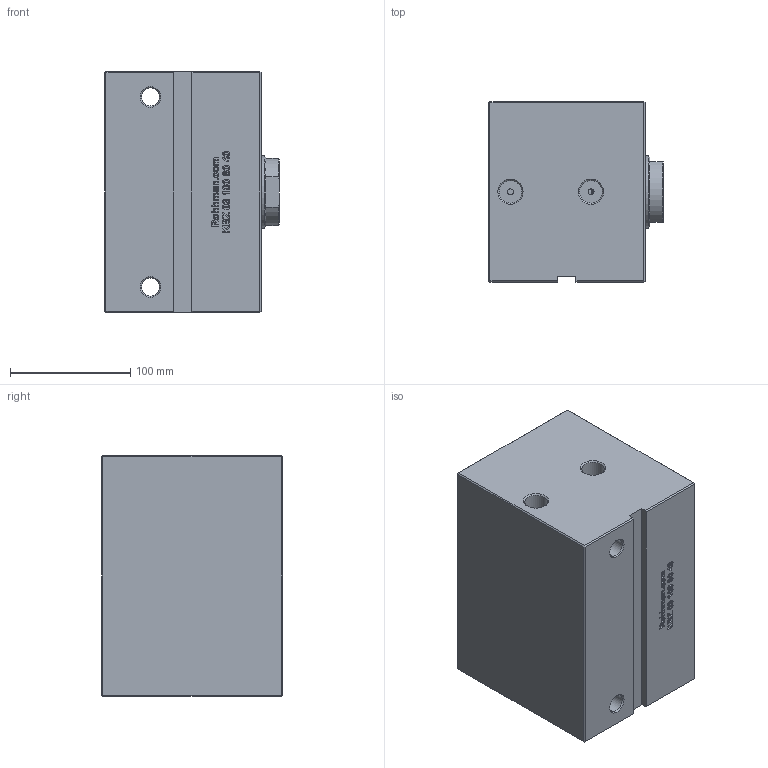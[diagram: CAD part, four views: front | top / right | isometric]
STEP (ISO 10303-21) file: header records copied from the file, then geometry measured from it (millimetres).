
FILE_DESCRIPTION(/* description */ (''),/* implementation_level */ '2;1');
FILE_NAME(/* name */ 'KBZ_03_100_60_40_WEB.step',/* time_stamp */ '2023-08-28T10:30:34+03:00',/* author */ (''),/* organization */ (''),/* preprocessor_version */ 'ST-DEVELOPER v20',/* originating_system */ 'Autodesk Translation Framework v12.9.0.99',/* authorisation */ '');
FILE_SCHEMA (('AUTOMOTIVE_DESIGN { 1 0 10303 214 3 1 1 }'));
Length unit declared in the file: millimetre
Products named in the file (7): KBZ_03_100_60_100; KAPAK; KAPAK_1; GÖVDE; GÖVDE_1; MİL; MİL_1
Assembly tree (6 placements, depth 3):
  KBZ_03_100_60_100
    KAPAK
      KAPAK_1
    GÖVDE
      GÖVDE_1
    MİL
      MİL_1
Bounding box: 145 x 150 x 200 mm (x, y, z)
Volume: 3445473.6 mm3; surface area: 270525.1 mm2
Topology: 3 solids, 3 shells, 586 faces, 1566 edges, 1031 vertices
Faces by surface type: bspline 343, plane 207, cone 18, cylinder 18
Full cylindrical faces by diameter (mm): 5 x4, 15 x2, 18.901 x2, 37.002 x1, 60 x1, 60.5 x1, 100 x1, 110 x2, 125 x2
Entity records: 21527 total; most frequent: CARTESIAN_POINT 9075, ORIENTED_EDGE 3132, EDGE_CURVE 1566, DIRECTION 1441, VERTEX_POINT 1031, LINE 817, VECTOR 817, B_SPLINE_CURVE_WITH_KNOTS 689
